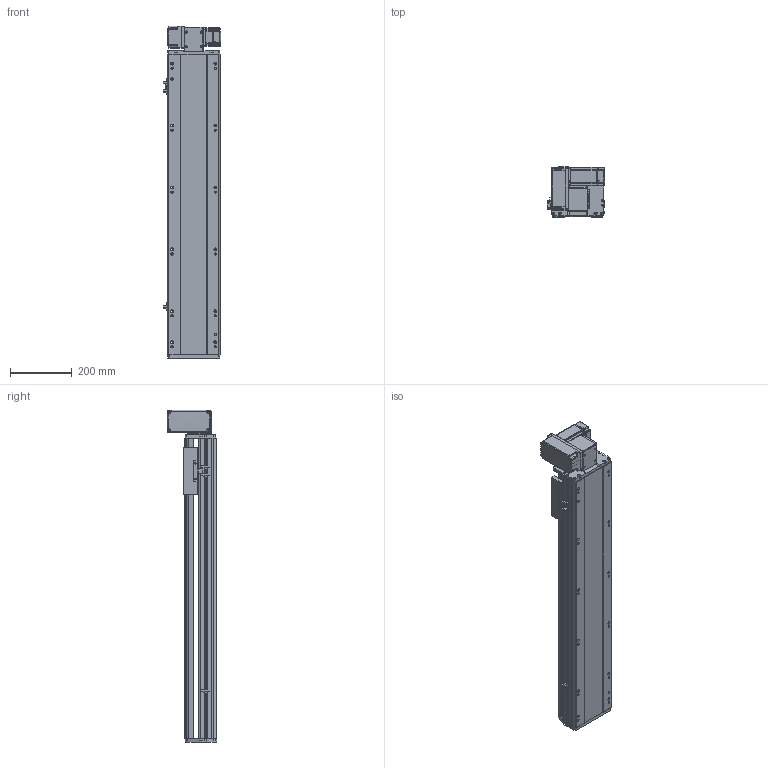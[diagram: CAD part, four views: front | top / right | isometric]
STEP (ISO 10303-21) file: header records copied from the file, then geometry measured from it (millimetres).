
FILE_DESCRIPTION (( 'STEP AP214' ), '1' );
FILE_NAME ('RTB17S-XX-700-LW-M40-C4.STEP', '2025-12-11T07:00:31', ( '' ), ( '' ), 'SwSTEP 2.0', 'SolidWorks 2018', '' );
FILE_SCHEMA (( 'AUTOMOTIVE_DESIGN' ));
Length unit declared in the file: millimetre
Products named in the file (14): RTB17S-LW-々湍釱蚾饜-400W^RTB17S-XX-XX-LW-M40-C4; RTB17S-L-007奻裔^RTB17S-XX-XX-LW-M40-C4; RTB17S-L-001耜醱啣^RTB17S-XX-XX-LW-M40-C4; RTB17-R-011菁釱^RTB17S-XX-XX-LW-M40-C4; RTB14-L-018P^RTB17S-LW-々湍釱蚾饜-400W_RTB17S-XX-XX-LW-M40-C4; RTB17S-XX-700-LW-M40-C4; RTB14-L-017P^RTB17S-LW-々湍釱蚾饜-400W_RTB17S-XX-XX-LW-M40-C4; 400W侜督萇儂^RTB17S-XX-XX-LW-M40-C4; RTB14-L-005P--轴承塑胶压盖^RTB17S-LW-皮带座装配-400W_RTB17S-XX-XX-LW-M40-C4; OMRON EE-SX672 传感器^RTB17S-XX-XX-LW-M40-C4; RTB17S-L-004佪裝蹟譫蟀諉釱^RTB17S-XX-XX-LW-M40-C4; RTB14-L-008-M20--萇儂啣^RTB17S-LW-々湍釱蚾饜-400W_RTB17S-XX-XX-LW-M40-C4; RTB17S-L-014-T20--々湍釱^RTB17S-LW-々湍釱蚾饜-400W_RTB17S-XX-XX-LW-M40-C4; RTH13-BL-012覜茼え俋离^RTB17S-XX-XX-LW-M40-C4
Assembly tree (16 placements, depth 3):
  RTB17S-XX-700-LW-M40-C4
    RTB17-R-011菁釱^RTB17S-XX-XX-LW-M40-C4
    RTB17S-L-007奻裔^RTB17S-XX-XX-LW-M40-C4
    OMRON EE-SX672 传感器^RTB17S-XX-XX-LW-M40-C4  x3
    RTB17S-L-001耜醱啣^RTB17S-XX-XX-LW-M40-C4
    400W侜督萇儂^RTB17S-XX-XX-LW-M40-C4
    RTB17S-L-004佪裝蹟譫蟀諉釱^RTB17S-XX-XX-LW-M40-C4
    RTH13-BL-012覜茼え俋离^RTB17S-XX-XX-LW-M40-C4
    RTB17S-LW-々湍釱蚾饜-400W^RTB17S-XX-XX-LW-M40-C4
      RTB17S-L-014-T20--々湍釱^RTB17S-LW-々湍釱蚾饜-400W_RTB17S-XX-XX-LW-M40-C4
      RTB14-L-005P--轴承塑胶压盖^RTB17S-LW-皮带座装配-400W_RTB17S-XX-XX-LW-M40-C4
      RTB14-L-008-M20--萇儂啣^RTB17S-LW-々湍釱蚾饜-400W_RTB17S-XX-XX-LW-M40-C4
      RTB14-L-017P^RTB17S-LW-々湍釱蚾饜-400W_RTB17S-XX-XX-LW-M40-C4  x2
      RTB14-L-018P^RTB17S-LW-々湍釱蚾饜-400W_RTB17S-XX-XX-LW-M40-C4
Bounding box: 186 x 160.5 x 1072.5 mm (x, y, z)
Volume: 9925274.2 mm3; surface area: 1232176.7 mm2
Topology: 15 solids, 15 shells, 2189 faces, 6033 edges, 3933 vertices
Faces by surface type: plane 1066, cylinder 675, bspline 301, cone 139, torus 8
Entity records: 61865 total; most frequent: CARTESIAN_POINT 17238, ORIENTED_EDGE 8910, DIRECTION 8306, EDGE_CURVE 4455, VERTEX_POINT 2921, AXIS2_PLACEMENT_3D 2851, LINE 2604, VECTOR 2604
